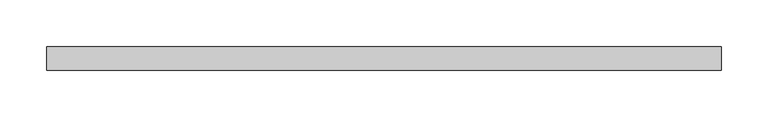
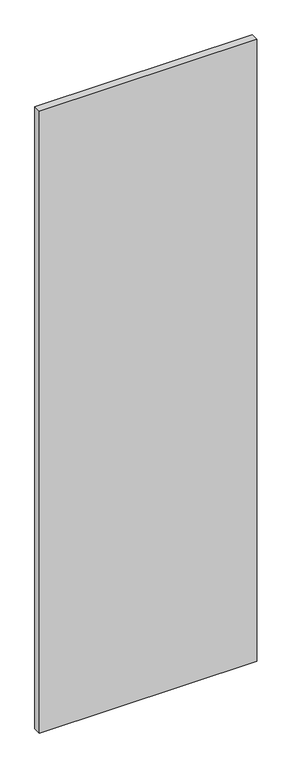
"""IFC4 building model written with IfcOpenShell, lengths in millimetres: plate geometry, 系统嵌板 : 玻璃."""

from ifc_helpers import new_model, si_unit, origin, origin_with_axes, place, context, project, spatial, polyline, outline, extrude, source, transform, mapped, element, save


def plate_786e0475(model_context):
    return source(origin(), model_context, "Body", "SweptSolid", [
        extrude(outline(polyline([(358.985496, -12.5), (-358.985496, -12.5), (-358.985496, 12.5), (358.985496, 12.5), (358.985496, -12.5)])), origin_with_axes(), (0.0, 0.0, 1.0), 2170.0),
    ])


if __name__ == "__main__":
    model = new_model("IFC4")
    model_context = context("Model", 3, world=origin())
    ifc_project = project(units=[si_unit("LENGTHUNIT", "METRE", prefix="MILLI")], contexts=[model_context])
    site = spatial("IfcSite", under=ifc_project)
    building = spatial("IfcBuilding", under=site)
    placement = place(None, origin())
    plate_shape = plate_786e0475(model_context)
    element("IfcPlate", 1, ObjectType="系统嵌板 : 玻璃", at=placement, inside=building, context=model_context, shape_type="MappedRepresentation", body=[
        mapped(plate_shape, transform((0.0, 0.0, 0.0), x_axis=(1.0, 0.0, 0.0), y_axis=(0.0, 1.0, 0.0), z_axis=(0.0, 0.0, 1.0))),
    ])
    save(model, "model.ifc")
